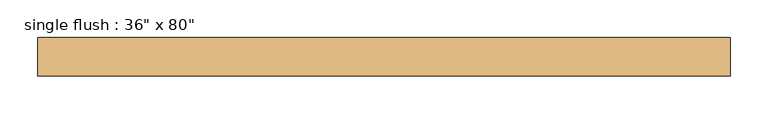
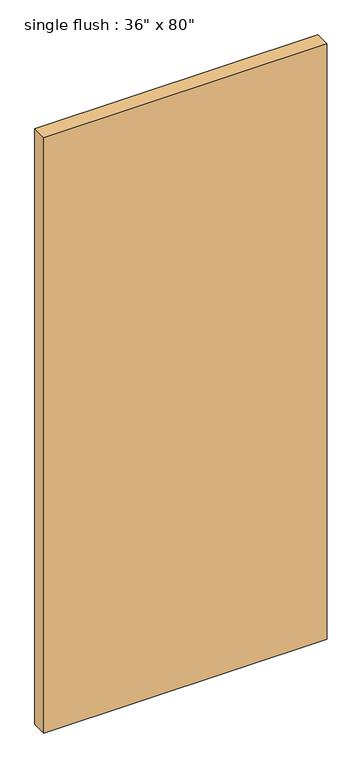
"""IFC4 building model written with IfcOpenShell, lengths in millimetres: door geometry."""

from ifc_helpers import new_model, si_unit, origin, origin_with_axes, place, context, project, spatial, polyline, outline, extrude, source, transform, mapped, element, save


def door_20d50eb6(model_context):
    return source(origin(), model_context, "Body", "SweptSolid", [
        extrude(outline(polyline([(457.2, -25.4), (457.2, -76.2), (-457.2, -76.2), (-457.2, -25.4), (457.2, -25.4)])), origin_with_axes(), (0.0, 0.0, 1.0), 2032.0),
    ])


if __name__ == "__main__":
    model = new_model("IFC4")
    model_context = context("Model", 3, world=origin())
    ifc_project = project(units=[si_unit("LENGTHUNIT", "METRE", prefix="MILLI")], contexts=[model_context])
    site = spatial("IfcSite", under=ifc_project)
    building = spatial("IfcBuilding", under=site)
    placement = place(None, origin())
    door_shape = door_20d50eb6(model_context)
    element("IfcDoor", 1, ObjectType="single flush : 36\" x 80\"", at=placement, inside=building, context=model_context, shape_type="MappedRepresentation", body=[
        mapped(door_shape, transform((0.0, 0.0, 0.0), x_axis=(1.0, 0.0, 0.0), y_axis=(0.0, 1.0, 0.0), z_axis=(0.0, 0.0, 1.0))),
    ])
    save(model, "model.ifc")
